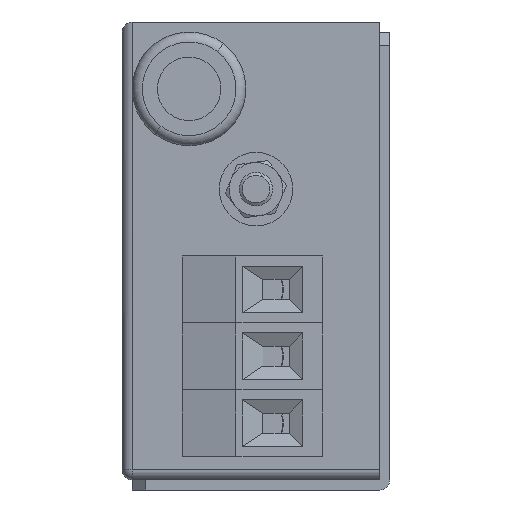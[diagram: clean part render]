
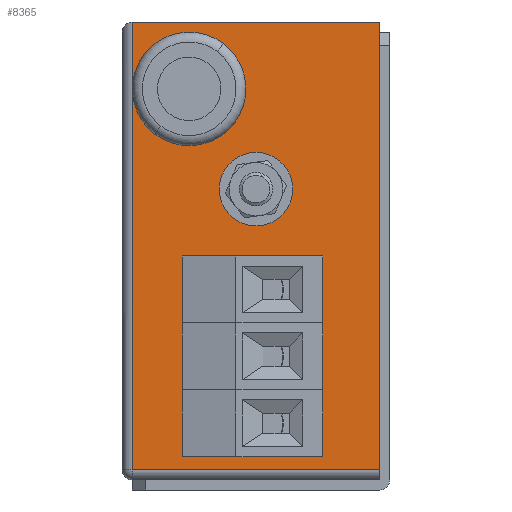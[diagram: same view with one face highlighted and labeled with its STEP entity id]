
A CAD part, left-side view. The second image highlights one B-rep face of the part: STEP entity #8365.
In plain terms, the highlighted planar face has unit normal (-1, 0, 0).
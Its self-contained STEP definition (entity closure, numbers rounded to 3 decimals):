
#46 = VERTEX_POINT ( 'NONE', #7584 ) ;
#105 = CARTESIAN_POINT ( 'NONE',  ( 23., 1.5, 1.5 ) ) ;
#143 = CARTESIAN_POINT ( 'NONE',  ( 23., 40., 1.5 ) ) ;
#156 = DIRECTION ( 'NONE',  ( 0., -1., 0. ) ) ;
#324 = AXIS2_PLACEMENT_3D ( 'NONE', #4482, #7341, #7471 ) ;
#350 = VERTEX_POINT ( 'NONE', #5386 ) ;
#445 = VECTOR ( 'NONE', #2110, 1000. ) ;
#582 = CARTESIAN_POINT ( 'NONE',  ( 23., 1.5, 0. ) ) ;
#622 = VERTEX_POINT ( 'NONE', #3489 ) ;
#814 = EDGE_LOOP ( 'NONE', ( #6176, #7929 ) ) ;
#928 = ORIENTED_EDGE ( 'NONE', *, *, #1871, .F. ) ;
#975 = PLANE ( 'NONE',  #8830 ) ;
#1031 = CIRCLE ( 'NONE', #6105, 4.1 ) ;
#1058 = EDGE_CURVE ( 'NONE', #4865, #7746, #7023, .T. ) ;
#1075 = VECTOR ( 'NONE', #5068, 1000. ) ;
#1233 = EDGE_LOOP ( 'NONE', ( #2260, #6719 ) ) ;
#1240 = DIRECTION ( 'NONE',  ( -1., 0., 0. ) ) ;
#1304 = DIRECTION ( 'NONE',  ( 0., 0., 1. ) ) ;
#1452 = VERTEX_POINT ( 'NONE', #6689 ) ;
#1507 = FACE_BOUND ( 'NONE', #8485, .T. ) ;
#1596 = EDGE_CURVE ( 'NONE', #7535, #1452, #1031, .T. ) ;
#1652 = DIRECTION ( 'NONE',  ( 0., 0., 1. ) ) ;
#1714 = AXIS2_PLACEMENT_3D ( 'NONE', #2566, #1240, #2736 ) ;
#1724 = DIRECTION ( 'NONE',  ( 1., 0., 0. ) ) ;
#1767 = CARTESIAN_POINT ( 'NONE',  ( 23., 38.5, -65.5 ) ) ;
#1820 = ORIENTED_EDGE ( 'NONE', *, *, #2823, .F. ) ;
#1823 = DIRECTION ( 'NONE',  ( 0., 0., -1. ) ) ;
#1842 = DIRECTION ( 'NONE',  ( -1., 0., 0. ) ) ;
#1871 = EDGE_CURVE ( 'NONE', #7053, #622, #2760, .T. ) ;
#2110 = DIRECTION ( 'NONE',  ( 0., 0., 1. ) ) ;
#2120 = CARTESIAN_POINT ( 'NONE',  ( 23., 40., 1.5 ) ) ;
#2122 = CIRCLE ( 'NONE', #8078, 4.1 ) ;
#2175 = ORIENTED_EDGE ( 'NONE', *, *, #8283, .T. ) ;
#2210 = CARTESIAN_POINT ( 'NONE',  ( 23., 30., -14.75 ) ) ;
#2260 = ORIENTED_EDGE ( 'NONE', *, *, #5895, .F. ) ;
#2391 = CARTESIAN_POINT ( 'NONE',  ( 23., 20., -48.5 ) ) ;
#2436 = CARTESIAN_POINT ( 'NONE',  ( 23., 20., -42.6 ) ) ;
#2508 = AXIS2_PLACEMENT_3D ( 'NONE', #5764, #2546, #1304 ) ;
#2546 = DIRECTION ( 'NONE',  ( -1., 0., 0. ) ) ;
#2566 = CARTESIAN_POINT ( 'NONE',  ( 23., 20., -23.5 ) ) ;
#2585 = DIRECTION ( 'NONE',  ( 0., 0., 1. ) ) ;
#2694 = CIRCLE ( 'NONE', #324, 2.5 ) ;
#2708 = VERTEX_POINT ( 'NONE', #3858 ) ;
#2736 = DIRECTION ( 'NONE',  ( 0., 0., 1. ) ) ;
#2760 = CIRCLE ( 'NONE', #9009, 4.1 ) ;
#2765 = DIRECTION ( 'NONE',  ( 0., 0., 1. ) ) ;
#2823 = EDGE_CURVE ( 'NONE', #6994, #350, #8383, .T. ) ;
#3043 = DIRECTION ( 'NONE',  ( 0., 0., 1. ) ) ;
#3105 = DIRECTION ( 'NONE',  ( -1., 0., 0. ) ) ;
#3126 = DIRECTION ( 'NONE',  ( 0., 0., 1. ) ) ;
#3166 = EDGE_LOOP ( 'NONE', ( #3979, #8302 ) ) ;
#3232 = CARTESIAN_POINT ( 'NONE',  ( 23., 20., -58.5 ) ) ;
#3278 = EDGE_CURVE ( 'NONE', #1452, #7535, #7797, .T. ) ;
#3366 = LINE ( 'NONE', #105, #8457 ) ;
#3489 = CARTESIAN_POINT ( 'NONE',  ( 23., 20., -44.4 ) ) ;
#3527 = ORIENTED_EDGE ( 'NONE', *, *, #9675, .T. ) ;
#3616 = CARTESIAN_POINT ( 'NONE',  ( 23., 30., -8.5 ) ) ;
#3780 = EDGE_CURVE ( 'NONE', #9360, #46, #4712, .T. ) ;
#3842 = EDGE_LOOP ( 'NONE', ( #1820, #8317 ) ) ;
#3858 = CARTESIAN_POINT ( 'NONE',  ( 23., 20., -34.4 ) ) ;
#3868 = CIRCLE ( 'NONE', #8009, 4.1 ) ;
#3871 = VECTOR ( 'NONE', #1823, 1000. ) ;
#3930 = DIRECTION ( 'NONE',  ( -1., 0., 0. ) ) ;
#3979 = ORIENTED_EDGE ( 'NONE', *, *, #3278, .F. ) ;
#4043 = EDGE_CURVE ( 'NONE', #5097, #2708, #2122, .T. ) ;
#4045 = EDGE_CURVE ( 'NONE', #6207, #9509, #9404, .T. ) ;
#4105 = LINE ( 'NONE', #7110, #3871 ) ;
#4206 = DIRECTION ( 'NONE',  ( 0., 0., 1. ) ) ;
#4409 = CARTESIAN_POINT ( 'NONE',  ( 23., 20., -21. ) ) ;
#4482 = CARTESIAN_POINT ( 'NONE',  ( 23., 20., -23.5 ) ) ;
#4541 = EDGE_CURVE ( 'NONE', #6207, #9360, #4105, .T. ) ;
#4712 = LINE ( 'NONE', #9131, #4939 ) ;
#4865 = VERTEX_POINT ( 'NONE', #2210 ) ;
#4887 = LINE ( 'NONE', #9602, #445 ) ;
#4939 = VECTOR ( 'NONE', #156, 1000. ) ;
#4943 = EDGE_CURVE ( 'NONE', #2708, #5097, #5508, .T. ) ;
#5068 = DIRECTION ( 'NONE',  ( 0., -1., 0. ) ) ;
#5097 = VERTEX_POINT ( 'NONE', #2436 ) ;
#5115 = CARTESIAN_POINT ( 'NONE',  ( 23., 20., -52.6 ) ) ;
#5231 = VERTEX_POINT ( 'NONE', #582 ) ;
#5294 = DIRECTION ( 'NONE',  ( 0., 0., 1. ) ) ;
#5386 = CARTESIAN_POINT ( 'NONE',  ( 23., 20., -26. ) ) ;
#5508 = CIRCLE ( 'NONE', #7961, 4.1 ) ;
#5749 = CARTESIAN_POINT ( 'NONE',  ( 23., 20., -58.5 ) ) ;
#5764 = CARTESIAN_POINT ( 'NONE',  ( 23., 30., -8.5 ) ) ;
#5868 = CARTESIAN_POINT ( 'NONE',  ( 23., 20., -38.5 ) ) ;
#5895 = EDGE_CURVE ( 'NONE', #7746, #4865, #7916, .T. ) ;
#6105 = AXIS2_PLACEMENT_3D ( 'NONE', #5749, #6605, #4206 ) ;
#6176 = ORIENTED_EDGE ( 'NONE', *, *, #4943, .F. ) ;
#6207 = VERTEX_POINT ( 'NONE', #6423 ) ;
#6232 = EDGE_LOOP ( 'NONE', ( #8535, #7206, #6973, #2175, #3527 ) ) ;
#6367 = EDGE_CURVE ( 'NONE', #350, #6994, #2694, .T. ) ;
#6385 = AXIS2_PLACEMENT_3D ( 'NONE', #3616, #9578, #2765 ) ;
#6423 = CARTESIAN_POINT ( 'NONE',  ( 23., 38.5, 1.5 ) ) ;
#6605 = DIRECTION ( 'NONE',  ( -1., 0., 0. ) ) ;
#6689 = CARTESIAN_POINT ( 'NONE',  ( 23., 20., -54.4 ) ) ;
#6719 = ORIENTED_EDGE ( 'NONE', *, *, #1058, .F. ) ;
#6750 = DIRECTION ( 'NONE',  ( -1., 0., 0. ) ) ;
#6794 = FACE_BOUND ( 'NONE', #3166, .T. ) ;
#6973 = ORIENTED_EDGE ( 'NONE', *, *, #3780, .T. ) ;
#6994 = VERTEX_POINT ( 'NONE', #4409 ) ;
#7023 = CIRCLE ( 'NONE', #2508, 6.25 ) ;
#7028 = FACE_BOUND ( 'NONE', #3842, .T. ) ;
#7053 = VERTEX_POINT ( 'NONE', #5115 ) ;
#7110 = CARTESIAN_POINT ( 'NONE',  ( 23., 38.5, 1.5 ) ) ;
#7116 = ORIENTED_EDGE ( 'NONE', *, *, #7677, .F. ) ;
#7122 = CARTESIAN_POINT ( 'NONE',  ( 23., 20., -62.6 ) ) ;
#7139 = FACE_BOUND ( 'NONE', #1233, .T. ) ;
#7206 = ORIENTED_EDGE ( 'NONE', *, *, #4541, .T. ) ;
#7265 = FACE_OUTER_BOUND ( 'NONE', #6232, .T. ) ;
#7341 = DIRECTION ( 'NONE',  ( -1., 0., 0. ) ) ;
#7349 = DIRECTION ( 'NONE',  ( 0., 0., 1. ) ) ;
#7471 = DIRECTION ( 'NONE',  ( 0., 0., 1. ) ) ;
#7535 = VERTEX_POINT ( 'NONE', #7122 ) ;
#7541 = CARTESIAN_POINT ( 'NONE',  ( 23., 30., -2.25 ) ) ;
#7584 = CARTESIAN_POINT ( 'NONE',  ( 23., 1.5, -65.5 ) ) ;
#7635 = CARTESIAN_POINT ( 'NONE',  ( 23., 20., -38.5 ) ) ;
#7677 = EDGE_CURVE ( 'NONE', #622, #7053, #3868, .T. ) ;
#7746 = VERTEX_POINT ( 'NONE', #7541 ) ;
#7797 = CIRCLE ( 'NONE', #9635, 4.1 ) ;
#7916 = CIRCLE ( 'NONE', #6385, 6.25 ) ;
#7929 = ORIENTED_EDGE ( 'NONE', *, *, #4043, .F. ) ;
#7961 = AXIS2_PLACEMENT_3D ( 'NONE', #7635, #3105, #1652 ) ;
#8009 = AXIS2_PLACEMENT_3D ( 'NONE', #8250, #6750, #5294 ) ;
#8078 = AXIS2_PLACEMENT_3D ( 'NONE', #5868, #8115, #7349 ) ;
#8115 = DIRECTION ( 'NONE',  ( -1., 0., 0. ) ) ;
#8250 = CARTESIAN_POINT ( 'NONE',  ( 23., 20., -48.5 ) ) ;
#8283 = EDGE_CURVE ( 'NONE', #46, #5231, #3366, .T. ) ;
#8302 = ORIENTED_EDGE ( 'NONE', *, *, #1596, .F. ) ;
#8317 = ORIENTED_EDGE ( 'NONE', *, *, #6367, .F. ) ;
#8365 = ADVANCED_FACE ( 'NONE', ( #6794, #1507, #9259, #7028, #7139, #7265 ), #975, .F. ) ;
#8383 = CIRCLE ( 'NONE', #1714, 2.5 ) ;
#8457 = VECTOR ( 'NONE', #3043, 1000. ) ;
#8485 = EDGE_LOOP ( 'NONE', ( #7116, #928 ) ) ;
#8535 = ORIENTED_EDGE ( 'NONE', *, *, #4045, .F. ) ;
#8753 = CARTESIAN_POINT ( 'NONE',  ( 23., 1.5, 1.5 ) ) ;
#8830 = AXIS2_PLACEMENT_3D ( 'NONE', #143, #1724, #9146 ) ;
#9009 = AXIS2_PLACEMENT_3D ( 'NONE', #2391, #3930, #3126 ) ;
#9131 = CARTESIAN_POINT ( 'NONE',  ( 23., 40., -65.5 ) ) ;
#9146 = DIRECTION ( 'NONE',  ( 0., 0., -1. ) ) ;
#9259 = FACE_BOUND ( 'NONE', #814, .T. ) ;
#9360 = VERTEX_POINT ( 'NONE', #1767 ) ;
#9404 = LINE ( 'NONE', #2120, #1075 ) ;
#9509 = VERTEX_POINT ( 'NONE', #8753 ) ;
#9578 = DIRECTION ( 'NONE',  ( -1., 0., 0. ) ) ;
#9602 = CARTESIAN_POINT ( 'NONE',  ( 23., 1.5, 1.5 ) ) ;
#9635 = AXIS2_PLACEMENT_3D ( 'NONE', #3232, #1842, #2585 ) ;
#9675 = EDGE_CURVE ( 'NONE', #5231, #9509, #4887, .T. ) ;
